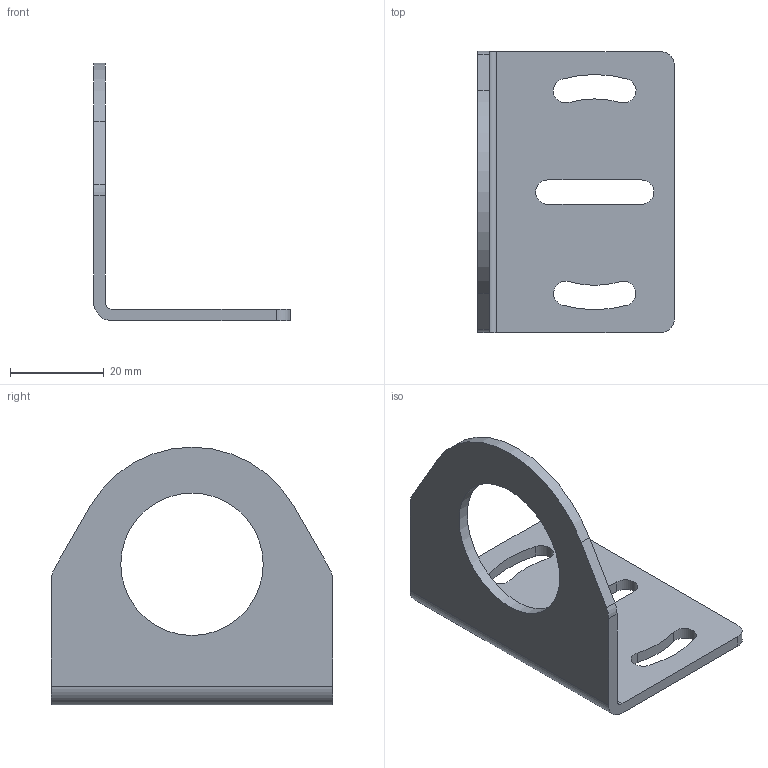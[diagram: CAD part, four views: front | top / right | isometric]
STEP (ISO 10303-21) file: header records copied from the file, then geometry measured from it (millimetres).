
FILE_DESCRIPTION( ( 'Unknown' ), '1' );
FILE_NAME( '//SRVMDFS14/Dati_CAD/Arch_Dis_Prodotti/Definitivi/Conversione_Fig/STP/ST30-C.stp', 'Unknown', ( 'Unknown' ), ( 'Unknown' ), 'PSStep 16.0.42', 'Unknown', ' ' );
FILE_SCHEMA( ( 'AUTOMOTIVE_DESIGN { 1 0 10303 214 1 1 1 1 }' ) );
Length unit declared in the file: millimetre
Products named in the file (1): 1
Bounding box: 42 x 60 x 55 mm (x, y, z)
Volume: 10209.7 mm3; surface area: 9444.2 mm2
Topology: 1 solids, 1 shells, 29 faces, 82 edges, 55 vertices
Faces by surface type: cylinder 18, plane 11
Full cylindrical faces by diameter (mm): 30.4 x1
Entity records: 1210 total; most frequent: DIRECTION 176, CARTESIAN_POINT 164, ORIENTED_EDGE 160, EDGE_CURVE 80, AXIS2_PLACEMENT_3D 66, VERTEX_POINT 54, LINE 44, VECTOR 44
